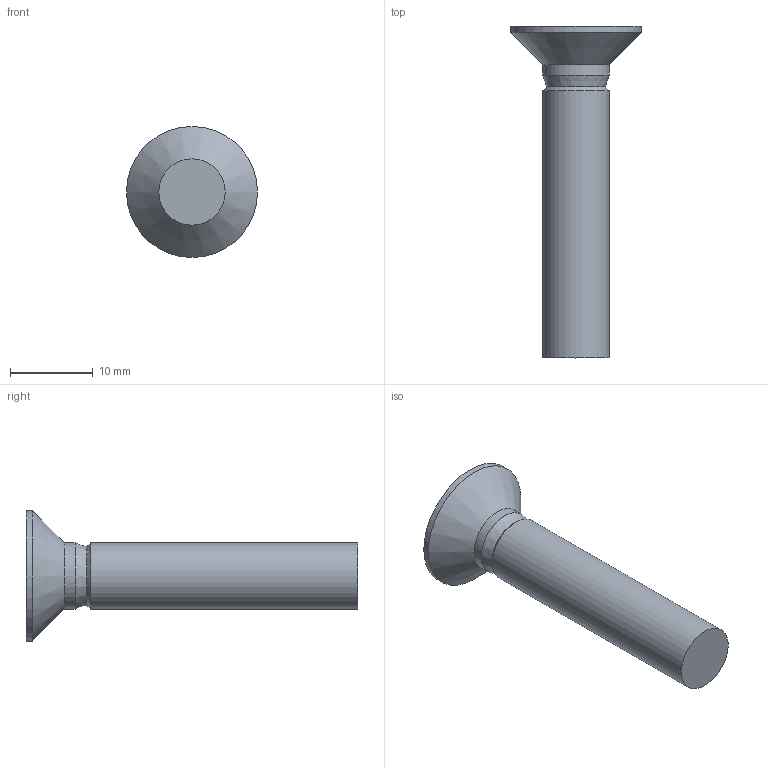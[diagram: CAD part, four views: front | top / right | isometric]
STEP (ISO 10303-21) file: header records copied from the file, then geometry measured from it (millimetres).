
FILE_DESCRIPTION(/* description */ (''),/* implementation_level */ '2;1');
FILE_NAME(/* name */ 'C:\Users\unitec\Documents\Inventor\HP\ボルト\JIS B 1111 十字穴付き皿小ねじ\IPT\CHWCSS-M8\CHWCSS-M8-40.stp',/* time_stamp */ '2016-12-24T16:30:23+09:00',/* author */ ('unitec'),/* organization */ (''),/* preprocessor_version */ 'ST-DEVELOPER v15.2',/* originating_system */ 'Autodesk Inventor 2014',/* authorisation */ '');
FILE_SCHEMA (('AUTOMOTIVE_DESIGN { 1 0 10303 214 3 1 1 }'));
Length unit declared in the file: millimetre
Products named in the file (1): CHWCSS-M8-40
Bounding box: 15.8 x 40 x 15.8 mm (x, y, z)
Volume: 2303.3 mm3; surface area: 1433.9 mm2
Topology: 1 solids, 1 shells, 33 faces, 77 edges, 43 vertices
Faces by surface type: plane 23, bspline 4, cylinder 3, cone 3
Full cylindrical faces by diameter (mm): 8 x2, 15.8 x1
Entity records: 1057 total; most frequent: CARTESIAN_POINT 400, ORIENTED_EDGE 134, DIRECTION 106, EDGE_CURVE 67, VERTEX_POINT 43, EDGE_LOOP 40, AXIS2_PLACEMENT_3D 37, ADVANCED_FACE 33
